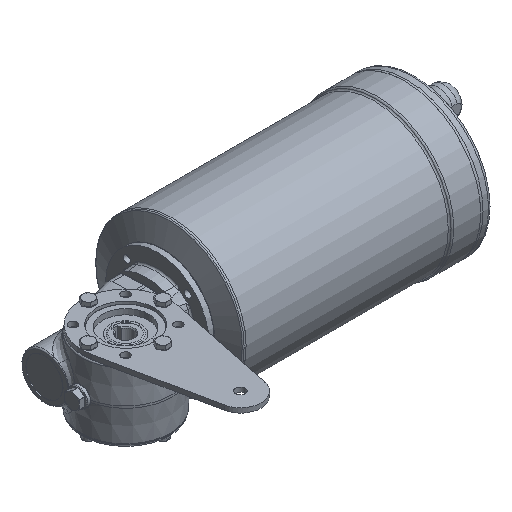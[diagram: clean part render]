
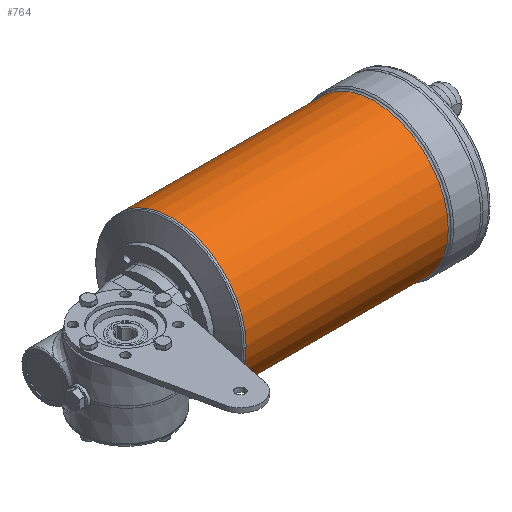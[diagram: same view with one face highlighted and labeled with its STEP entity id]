
A CAD part, isometric view. The second image highlights one B-rep face of the part: STEP entity #764.
In plain terms, the highlighted cylindrical face has radius 64.5 mm (diameter 129 mm), a full revolution.
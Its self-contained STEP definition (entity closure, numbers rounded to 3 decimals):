
#764 = ADVANCED_FACE( '', ( #2010, #2011 ), #2012, .T. );
#2010 = FACE_OUTER_BOUND( '', #4872, .T. );
#2011 = FACE_OUTER_BOUND( '', #4873, .T. );
#2012 = CYLINDRICAL_SURFACE( '', #4874, 64.5 );
#4872 = EDGE_LOOP( '', ( #9834 ) );
#4873 = EDGE_LOOP( '', ( #9835 ) );
#4874 = AXIS2_PLACEMENT_3D( '', #9836, #9837, #9838 );
#9834 = ORIENTED_EDGE( '', *, *, #13546, .T. );
#9835 = ORIENTED_EDGE( '', *, *, #13547, .T. );
#9836 = CARTESIAN_POINT( '', ( 230.668, 30., 0. ) );
#9837 = DIRECTION( '', ( -1., 0., 0. ) );
#9838 = DIRECTION( '', ( 0., 0., 1. ) );
#13546 = EDGE_CURVE( '', #15358, #15358, #15359, .F. );
#13547 = EDGE_CURVE( '', #15360, #15360, #15361, .T. );
#15358 = VERTEX_POINT( '', #18663 );
#15359 = CIRCLE( '', #18664, 64.5 );
#15360 = VERTEX_POINT( '', #18665 );
#15361 = CIRCLE( '', #18666, 64.5 );
#18663 = CARTESIAN_POINT( '', ( 246.672, 30., 64.5 ) );
#18664 = AXIS2_PLACEMENT_3D( '', #22671, #22672, #22673 );
#18665 = CARTESIAN_POINT( '', ( 70.5, 30., 64.5 ) );
#18666 = AXIS2_PLACEMENT_3D( '', #22674, #22675, #22676 );
#22671 = CARTESIAN_POINT( '', ( 246.672, 30., 0. ) );
#22672 = DIRECTION( '', ( 1., 0., 0. ) );
#22673 = DIRECTION( '', ( 0., 0., 1. ) );
#22674 = CARTESIAN_POINT( '', ( 70.5, 30., 0. ) );
#22675 = DIRECTION( '', ( 1., 0., 0. ) );
#22676 = DIRECTION( '', ( 0., 0., 1. ) );
